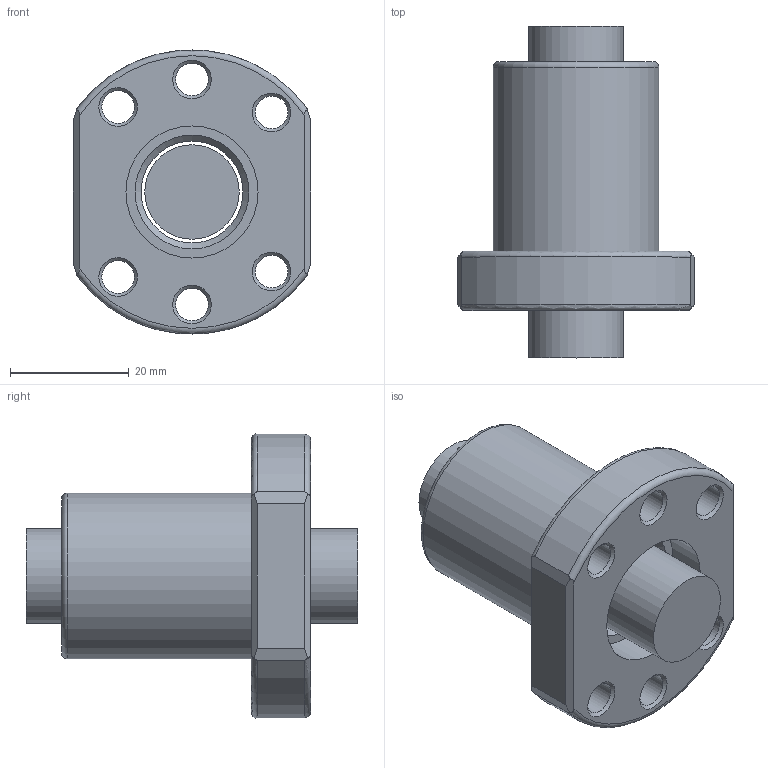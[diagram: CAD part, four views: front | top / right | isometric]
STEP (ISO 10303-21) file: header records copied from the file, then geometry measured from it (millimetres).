
FILE_DESCRIPTION(/* description */ (''),/* implementation_level */ '2;1');
FILE_NAME(/* name */ '16053T3.step',/* time_stamp */ '2008-12-05T16:31:09+08:00',/* author */ (''),/* organization */ (''),/* preprocessor_version */ 'ST-DEVELOPER v11',/* originating_system */ 'SIEMENS UGS NX 6.0',/* authorisation */ '');
FILE_SCHEMA (('AUTOMOTIVE_DESIGN { 1 0 10303 214 1 1 1 1 }'));
Length unit declared in the file: millimetre
Products named in the file (1): 1605T3
Bounding box: 40 x 56 x 47.93 mm (x, y, z)
Volume: 34100.2 mm3; surface area: 13287.5 mm2
Topology: 2 solids, 2 shells, 49 faces, 112 edges, 70 vertices
Faces by surface type: plane 17, cone 14, cylinder 13, torus 5
Full cylindrical faces by diameter (mm): 5.5 x6, 15.95 x1, 17.2 x1, 22.3 x2, 28 x1
Entity records: 1506 total; most frequent: CARTESIAN_POINT 444, DIRECTION 214, ORIENTED_EDGE 170, AXIS2_PLACEMENT_3D 95, EDGE_LOOP 92, EDGE_CURVE 85, FACE_BOUND 74, VERTEX_POINT 69
